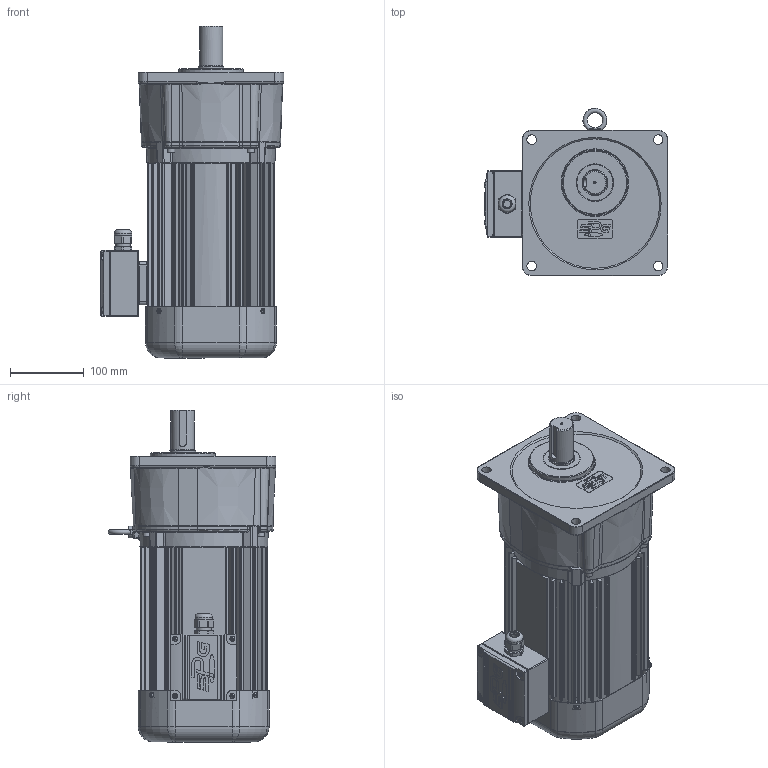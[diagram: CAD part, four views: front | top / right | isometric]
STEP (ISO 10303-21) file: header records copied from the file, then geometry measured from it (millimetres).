
FILE_DESCRIPTION(/* description */ (''),/* implementation_level */ '2;1');
FILE_NAME(/* name */ 'Z:\동력 3D 파일\PAK32_1.5kW_3D.stp',/* time_stamp */ '2021-11-09T09:05:33+09:00',/* author */ ('jaebok'),/* organization */ (''),/* preprocessor_version */ 'ST-DEVELOPER v18.1',/* originating_system */ 'Autodesk Inventor 2022',/* authorisation */ '');
FILE_SCHEMA (('AUTOMOTIVE_DESIGN { 1 0 10303 214 3 1 1 }'));
Products named in the file (1): 부품17
Bounding box: 249.5 x 227.8 x 451.5 mm (x, y, z)
Volume: 3042038.9 mm3; surface area: 918905.1 mm2
Topology: 1 solids, 28 shells, 3477 faces, 8704 edges, 5140 vertices
Faces by surface type: plane 1000, bspline 933, cylinder 878, torus 324, cone 202, sphere 140
Full cylindrical faces by diameter (mm): 2 x2, 3.25 x1, 3.6 x4, 4 x22, 4.917 x4, 5 x24, 6 x5, 6.5 x4, 6.647 x1, 7 x13, 8 x1, 9.5 x4, 10 x5, 12.5 x1, 15 x1, 20 x2, 20.6 x1, 21 x1, 21.8 x1, 22 x2, 23.6 x1, 25 x1, 26 x1, 30 x1, 31.8 x2, 32 x2, 34.8 x1, 35 x3, 36 x1, 37 x1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
Entity records: 135959 total; most frequent: CARTESIAN_POINT 55590, ORIENTED_EDGE 16920, DIRECTION 14877, EDGE_CURVE 8460, AXIS2_PLACEMENT_3D 6104, VERTEX_POINT 5139, EDGE_LOOP 3704, CIRCLE 3498
